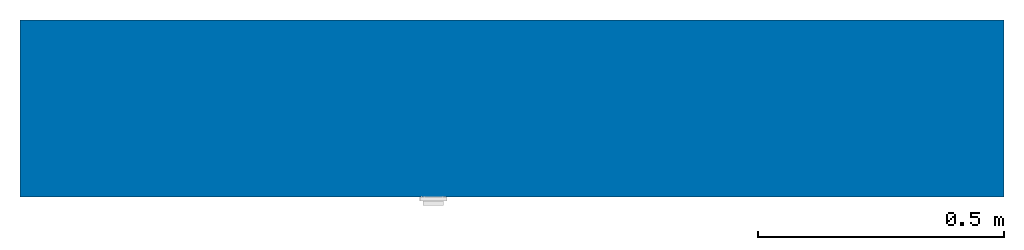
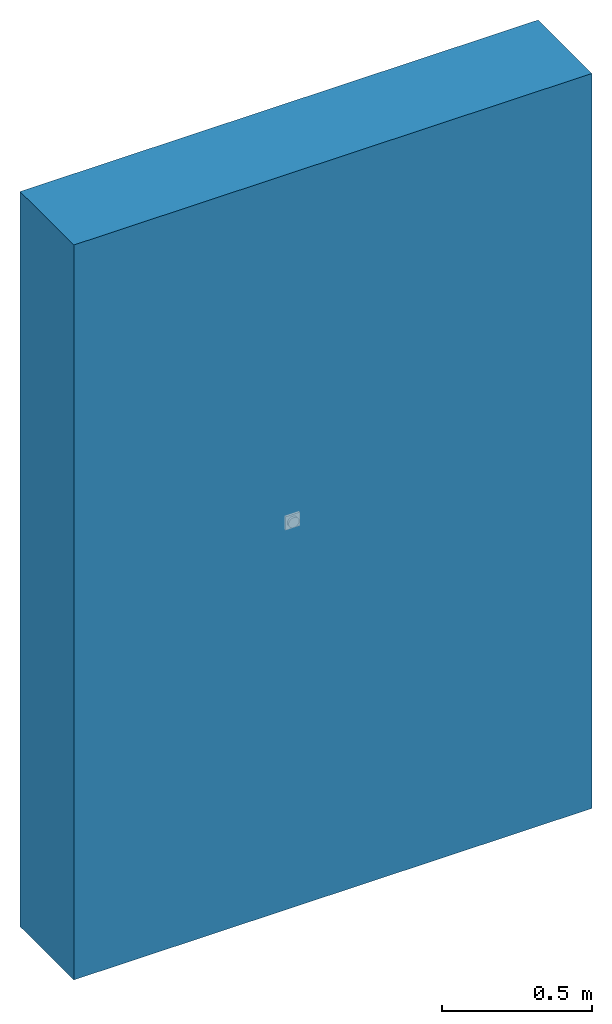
# One storey, part 1 of 2: 1 wall.
"""IFC2X3 building model written with IfcOpenShell, lengths in metres."""

from ifc_helpers import new_model, entity, si_unit, converted_unit, derived_unit, direction, frame, frame_2d, origin, place, context, subcontext, project, spatial, rectangle, extrude, material, layer, layer_set, layer_usage, type_object, element, save


model = new_model("IFC2X3")

# Units and contexts
model_context = context("Model", 3, precision=1e-05, world=origin(), true_north=direction((6.12303176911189e-17, 1.0)))
body_context = subcontext(model_context, "Body", "Model", "MODEL_VIEW")
ifc_project = project(units=[si_unit("LENGTHUNIT", "METRE"), si_unit("AREAUNIT", "SQUARE_METRE"), si_unit("VOLUMEUNIT", "CUBIC_METRE"), converted_unit("PLANEANGLEUNIT", "DEGREE", entity("IfcRatioMeasure", 0.0174532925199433), si_unit("PLANEANGLEUNIT", "RADIAN"), dimensions=[0, 0, 0, 0, 0, 0, 0]), si_unit("MASSUNIT", "GRAM", prefix="KILO"), si_unit("TIMEUNIT", "SECOND"), si_unit("FREQUENCYUNIT", "HERTZ"), si_unit("THERMODYNAMICTEMPERATUREUNIT", "DEGREE_CELSIUS"), derived_unit("THERMALTRANSMITTANCEUNIT", [(si_unit("MASSUNIT", "GRAM", prefix="KILO"), 1), (si_unit("THERMODYNAMICTEMPERATUREUNIT", "KELVIN"), -1), (si_unit("TIMEUNIT", "SECOND"), -3)]), derived_unit("VOLUMETRICFLOWRATEUNIT", [(si_unit("LENGTHUNIT", "METRE"), 3), (si_unit("TIMEUNIT", "SECOND"), -1)]), si_unit("ELECTRICCURRENTUNIT", "AMPERE"), si_unit("ELECTRICVOLTAGEUNIT", "VOLT"), si_unit("POWERUNIT", "WATT"), si_unit("FORCEUNIT", "NEWTON", prefix="KILO"), si_unit("ILLUMINANCEUNIT", "LUX"), si_unit("LUMINOUSFLUXUNIT", "LUMEN"), si_unit("LUMINOUSINTENSITYUNIT", "CANDELA"), derived_unit("USERDEFINED", [(si_unit("MASSUNIT", "GRAM", prefix="KILO"), -1), (si_unit("LENGTHUNIT", "METRE"), -2), (si_unit("TIMEUNIT", "SECOND"), 3), (si_unit("LUMINOUSFLUXUNIT", "LUMEN"), 1)]), derived_unit("LINEARVELOCITYUNIT", [(si_unit("LENGTHUNIT", "METRE"), 1), (si_unit("TIMEUNIT", "SECOND"), -1)]), si_unit("PRESSUREUNIT", "PASCAL"), derived_unit("USERDEFINED", [(si_unit("LENGTHUNIT", "METRE"), -2), (si_unit("MASSUNIT", "GRAM", prefix="KILO"), 1), (si_unit("TIMEUNIT", "SECOND"), -2)])], contexts=[model_context])

# Site, building, storey
site_placement = place(None, origin())
site = spatial("IfcSite", under=ifc_project, at=site_placement, Name="Default", CompositionType="ELEMENT")
building_placement = place(site_placement, origin())
building = spatial("IfcBuilding", under=site, at=building_placement, CompositionType="ELEMENT")
storey_placement = place(building_placement, origin())
storey = spatial("IfcBuildingStorey", under=building, at=storey_placement, Name="Ebene 0", CompositionType="ELEMENT", Elevation=0.0)

# Wall
ifc_material_1 = material(Name="Wärmedämmung - hart")
ifc_layer_1 = layer(ifc_material_1, 0.12)
ifc_material_2 = material(Name="Mauerwerk - Ziegel, verputzt")
ifc_layer_2 = layer(ifc_material_2, 0.24)
ifc_layer_set = layer_set([ifc_layer_1, ifc_layer_2], Name="Basiswand:MW 24.0 WD 12.0")
ifc_layer_usage = layer_usage(ifc_layer_set, "AXIS2", "NEGATIVE", 0.18)
wall_type = type_object("IfcWallType", Name="Basiswand:MW 24.0 WD 12.0", PredefinedType="STANDARD", material=ifc_layer_set)
wall_placement = place(storey_placement, frame((-5.52954748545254, 5.76487313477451, 0.0)))
element("IfcWallStandardCase", 1, at=wall_placement, inside=storey, type_object=wall_type, material=ifc_layer_usage, Name="Basiswand:MW 24.0 WD 12.0", ObjectType="Basiswand:MW 24.0 WD 12.0:3900", context=body_context, shape_type="SweptSolid", body=[
    extrude(rectangle(XDim=2.0, YDim=0.36, at=frame_2d((1.0, -2.63677968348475e-16), x_axis=(-1.0, 0.0))), origin(), (0.0, 0.0, 1.0), 3.0),
])

save(model, "model.ifc")
